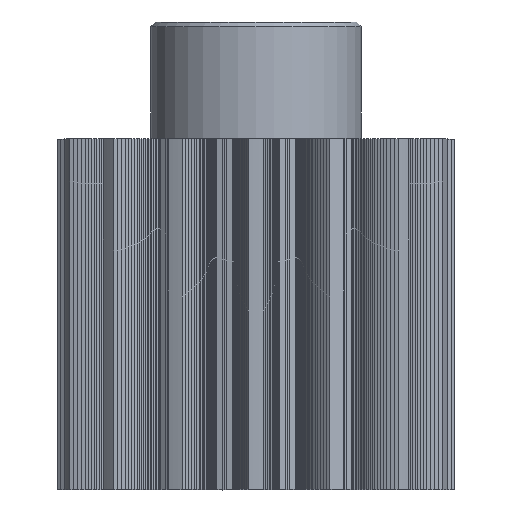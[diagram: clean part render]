
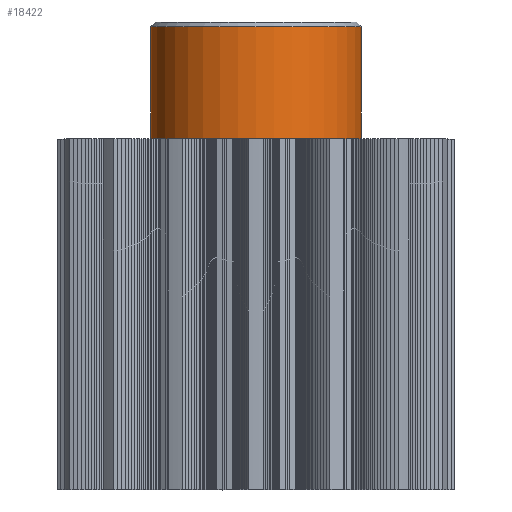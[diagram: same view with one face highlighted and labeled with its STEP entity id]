
A CAD part, top view. The second image highlights one B-rep face of the part: STEP entity #18422.
In plain terms, the highlighted cylindrical face has radius 4.5 mm (diameter 9 mm), a full revolution.
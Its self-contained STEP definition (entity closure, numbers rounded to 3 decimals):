
#3251=CYLINDRICAL_SURFACE('',#19249,4.5);
#3269=FACE_OUTER_BOUND('',#4070,.T.);
#4070=EDGE_LOOP('',(#13637,#13638,#13639,#13640,#13641));
#4874=LINE('',#24226,#7232);
#7232=VECTOR('',#20128,4.5);
#9590=CIRCLE('',#19247,4.5);
#9591=CIRCLE('',#19248,4.5);
#9592=CIRCLE('',#19250,4.5);
#9643=VERTEX_POINT('',#24219);
#9644=VERTEX_POINT('',#24221);
#9645=VERTEX_POINT('',#24225);
#11240=EDGE_CURVE('',#9643,#9644,#9590,.T.);
#11241=EDGE_CURVE('',#9644,#9643,#9591,.T.);
#11242=EDGE_CURVE('',#9644,#9645,#4874,.T.);
#11243=EDGE_CURVE('',#9645,#9645,#9592,.T.);
#13637=ORIENTED_EDGE('',*,*,#11240,.F.);
#13638=ORIENTED_EDGE('',*,*,#11241,.F.);
#13639=ORIENTED_EDGE('',*,*,#11242,.T.);
#13640=ORIENTED_EDGE('',*,*,#11243,.T.);
#13641=ORIENTED_EDGE('',*,*,#11242,.F.);
#18422=ADVANCED_FACE('',(#3269),#3251,.T.);
#19247=AXIS2_PLACEMENT_3D('',#24222,#20122,#20123);
#19248=AXIS2_PLACEMENT_3D('',#24223,#20124,#20125);
#19249=AXIS2_PLACEMENT_3D('',#24224,#20126,#20127);
#19250=AXIS2_PLACEMENT_3D('',#24227,#20129,#20130);
#20122=DIRECTION('center_axis',(0.,1.,0.));
#20123=DIRECTION('ref_axis',(-1.,0.,0.));
#20124=DIRECTION('center_axis',(0.,1.,0.));
#20125=DIRECTION('ref_axis',(-1.,0.,0.));
#20126=DIRECTION('center_axis',(0.,1.,0.));
#20127=DIRECTION('ref_axis',(1.,0.,0.));
#20128=DIRECTION('',(0.,-1.,0.));
#20129=DIRECTION('center_axis',(0.,1.,0.));
#20130=DIRECTION('ref_axis',(1.,0.,0.));
#24219=CARTESIAN_POINT('',(4.5,19.8,0.));
#24221=CARTESIAN_POINT('',(-4.5,19.8,0.));
#24222=CARTESIAN_POINT('Origin',(0.,19.8,0.));
#24223=CARTESIAN_POINT('Origin',(0.,19.8,0.));
#24224=CARTESIAN_POINT('Origin',(0.,10.,0.));
#24225=CARTESIAN_POINT('',(-4.5,15.,0.));
#24226=CARTESIAN_POINT('',(-4.5,10.,0.));
#24227=CARTESIAN_POINT('Origin',(0.,15.,0.));
